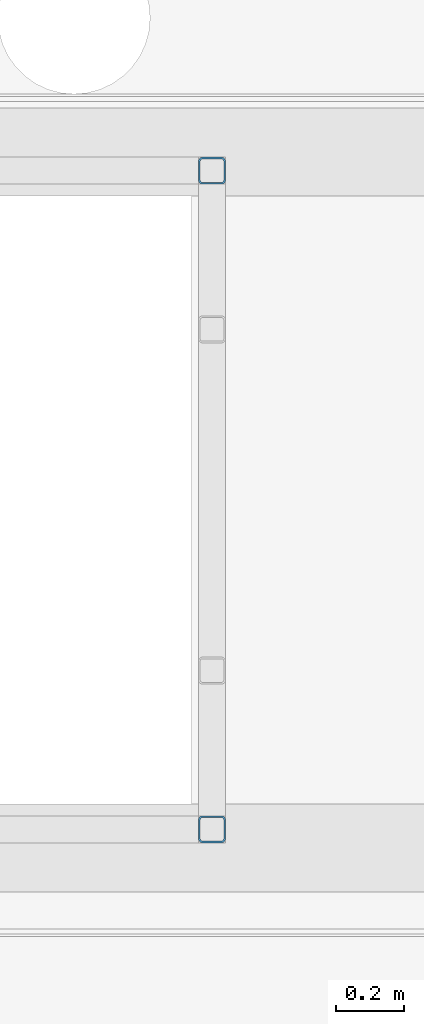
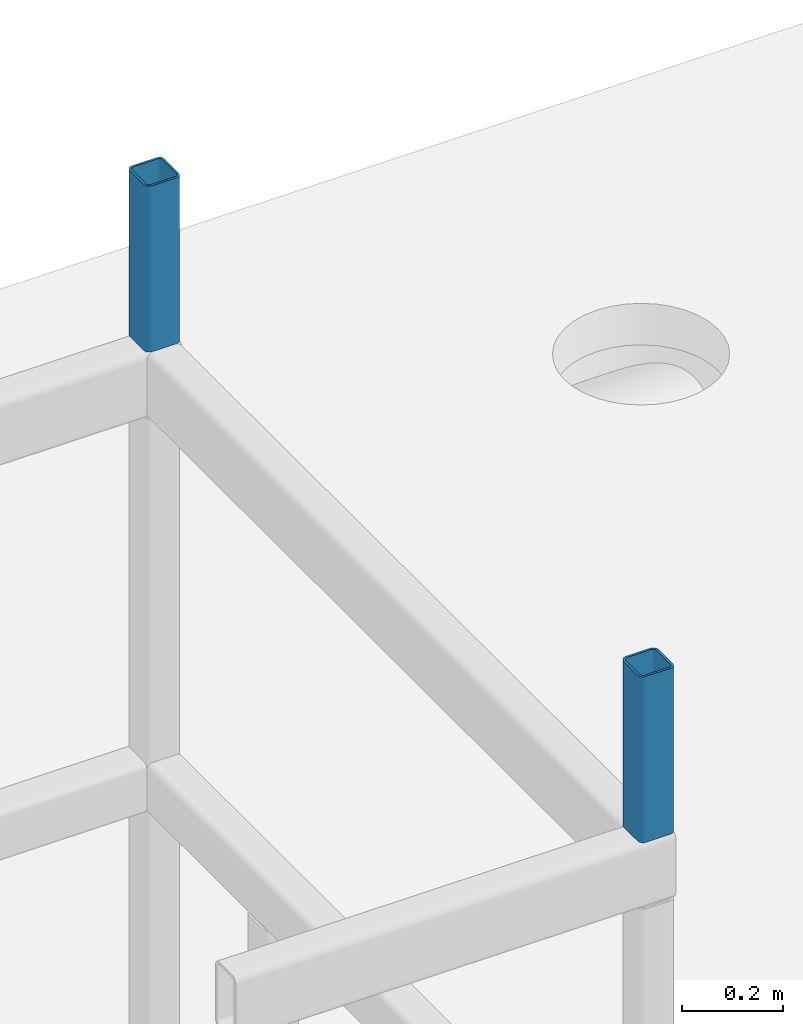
# One storey, part 18 of 34: 2 columns.
"""IFC2X3 building model written with IfcOpenShell, lengths in millimetres."""

from ifc_helpers import new_model, entity, si_unit, converted_unit, derived_unit, direction, frame, origin_with_axes, place, context, subcontext, project, spatial, faceted_brep, type_object, element, save


model = new_model("IFC2X3")

# Units and contexts
model_context = context("Model", 3, precision=0.01, world=frame((0.0, 4.29681676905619e-09, 0.0)), true_north=direction((4.01073788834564e-13, 1.0)))
plan_context = context("Plan", 3, precision=0.01, world=frame((0.0, 4.29681676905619e-09, 0.0)), true_north=direction((4.01073788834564e-13, 1.0)))
body_context = subcontext(model_context, "Body", "Model", "MODEL_VIEW")
ifc_project = project(units=[converted_unit("PLANEANGLEUNIT", "DEGREE", entity("IfcPositiveLengthMeasure", 0.0174532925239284), si_unit("PLANEANGLEUNIT", "RADIAN"), dimensions=[0, 0, 0, 0, 0, 0, 0]), si_unit("AREAUNIT", "SQUARE_METRE"), si_unit("LENGTHUNIT", "METRE", prefix="MILLI"), si_unit("MASSUNIT", "GRAM", prefix="KILO"), si_unit("POWERUNIT", "WATT"), si_unit("PRESSUREUNIT", "PASCAL"), si_unit("FORCEUNIT", "NEWTON", prefix="KILO"), si_unit("ELECTRICVOLTAGEUNIT", "VOLT"), si_unit("ELECTRICCURRENTUNIT", "AMPERE"), si_unit("THERMODYNAMICTEMPERATUREUNIT", "DEGREE_CELSIUS"), si_unit("TIMEUNIT", "SECOND"), si_unit("VOLUMEUNIT", "CUBIC_METRE"), derived_unit("LINEARVELOCITYUNIT", [(si_unit("LENGTHUNIT", "METRE"), 1), (si_unit("TIMEUNIT", "SECOND"), -1)]), derived_unit("VOLUMETRICFLOWRATEUNIT", [(si_unit("VOLUMEUNIT", "CUBIC_METRE"), 1), (si_unit("TIMEUNIT", "SECOND"), -1)]), derived_unit("THERMALTRANSMITTANCEUNIT", [(si_unit("POWERUNIT", "WATT"), 1), (si_unit("THERMODYNAMICTEMPERATUREUNIT", "KELVIN"), -1), (si_unit("AREAUNIT", "SQUARE_METRE"), -1)]), derived_unit("SOUNDPRESSUREUNIT", [(si_unit("PRESSUREUNIT", "PASCAL"), 1)])], contexts=[model_context, plan_context])

# Site, building, storey
site_placement = place(None, frame((0.0, -4.29681676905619e-09, 0.0), z_axis=(0.0, 0.0, 1.0), x_axis=(1.0, 0.0, 0.0)))
site = spatial("IfcSite", under=ifc_project, at=site_placement, Name="Gardermoen", CompositionType="ELEMENT")
building_placement = place(site_placement, frame((0.0, 4.29681676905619e-09, 0.0), z_axis=(0.0, 0.0, 1.0), x_axis=(1.0, 0.0, 0.0)))
building = spatial("IfcBuilding", under=site, at=building_placement, Name="TH", CompositionType="ELEMENT")
storey_placement = place(building_placement, origin_with_axes())
storey = spatial("IfcBuildingStorey", under=building, at=storey_placement, Name="F", CompositionType="ELEMENT", Elevation=0.0)

# Columns
column_type = type_object("IfcColumnType", Name="RHS80*80*5", PredefinedType="NOTDEFINED")
column_1_placement = place(storey_placement, frame((896074.999766, 480345.0, 213500.0), z_axis=(0.0, 0.0, 1.0), x_axis=(1.0, 0.0, 0.0)))
element("IfcColumn", 1, at=column_1_placement, inside=storey, type_object=column_type, Name="STÅLSØYLE", ObjectType="RHS80*80*5", context=body_context, shape_type="Brep", body=[
    faceted_brep([(-35.0000779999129, -27.5, 400.0), (-35.0000779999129, 27.5, 400.0), (-35.000093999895, 27.5, 1.40000020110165e-06), (-35.000093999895, -27.5, 1.40000020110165e-06), (-34.8559676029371, -28.963177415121, 400.000000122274), (-34.8559836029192, -28.963177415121, 1.39423582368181e-06), (-34.4291744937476, -30.3701257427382, 400.000000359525), (-34.4291904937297, -30.3701257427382, 1.37716415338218e-06), (-33.736100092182, -31.666776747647, 400.000000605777), (-33.7361160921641, -31.666776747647, 1.34944139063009e-06), (-32.803378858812, -32.8033008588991, 400.00000089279), (-32.8033948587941, -32.8033008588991, 1.31213255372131e-06), (-31.6668547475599, -33.7360220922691, 400.000000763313), (-31.666870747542, -33.7360220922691, 1.26667146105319e-06), (-30.3702037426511, -34.4290964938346, 400.000000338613), (-30.3702197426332, -34.4290964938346, 1.21480570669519e-06), (-28.9632554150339, -34.8558896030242, 400.00000011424), (-28.963271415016, -34.8558896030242, 1.15852753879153e-06), (-27.5000779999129, -35.0, 400.0), (-27.500093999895, -35.0, 1.10000064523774e-06), (27.4999220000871, -35.0, 400.0), (27.4999060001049, -35.0, -1.09999700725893e-06), (28.9630994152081, -34.8558896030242, 400.0), (28.9630834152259, -34.8558896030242, -1.15852390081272e-06), (30.3700477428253, -34.4290964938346, 400.000000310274), (30.3700317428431, -34.4290964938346, -1.21480206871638e-06), (31.6666987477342, -33.7360220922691, 400.000000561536), (31.666682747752, -33.7360220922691, -1.26666782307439e-06), (32.8032228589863, -32.8033008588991, 400.00000089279), (32.803206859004, -32.8033008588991, -1.31212891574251e-06), (33.7359440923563, -31.666776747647, 400.000001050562), (33.735928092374, -31.666776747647, -1.34943775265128e-06), (34.4290184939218, -30.3701257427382, 400.000001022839), (34.4290024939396, -30.3701257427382, -1.37716051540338e-06), (34.8558116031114, -28.963177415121, 400.000001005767), (34.8557956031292, -28.963177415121, -1.394232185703e-06), (34.9999220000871, -27.5, 400.00000034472), (34.9999060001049, -27.5, -1.39999656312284e-06), (34.9999220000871, 27.5, 400.0), (34.9999060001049, 27.5, -1.39999656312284e-06), (34.8558116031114, 28.963177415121, 400.000000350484), (34.8557956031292, 28.963177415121, -1.394232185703e-06), (34.4290184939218, 30.3701257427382, 400.000001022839), (34.4290024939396, 30.3701257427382, -1.37716051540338e-06), (33.7359440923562, 31.666776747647, 400.000001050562), (33.735928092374, 31.666776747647, -1.34943775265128e-06), (32.8032228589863, 32.8033008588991, 400.000001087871), (32.803206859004, 32.8033008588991, -1.31212891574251e-06), (31.6666987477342, 33.7360220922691, 400.000000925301), (31.666682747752, 33.7360220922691, -1.26666782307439e-06), (30.3700477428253, 34.4290964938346, 400.000000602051), (30.3700317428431, 34.4290964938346, -1.21480206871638e-06), (28.9630994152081, 34.8558896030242, 400.000000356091), (28.9630834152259, 34.8558896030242, -1.15852390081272e-06), (27.4999220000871, 35.0, 400.000000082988), (27.4999060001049, 35.0, -1.09999700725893e-06), (-27.5000779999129, 35.0, 400.00000182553), (-27.500093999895, 35.0, 1.10000064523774e-06), (-28.9632554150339, 34.8558896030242, 400.000000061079), (-28.963271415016, 34.8558896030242, 1.15852753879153e-06), (-30.3702037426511, 34.4290964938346, 400.000000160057), (-30.3702197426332, 34.4290964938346, 1.21480570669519e-06), (-31.6668547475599, 33.7360220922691, 400.000000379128), (-31.666870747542, 33.7360220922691, 1.26667146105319e-06), (-32.803378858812, 32.8033008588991, 400.000000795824), (-32.8033948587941, 32.8033008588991, 1.31213255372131e-06), (-33.736100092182, 31.666776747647, 400.000000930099), (-33.7361160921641, 31.666776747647, 1.34944139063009e-06), (-34.4291744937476, 30.3701257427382, 400.0000006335), (-34.4291904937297, 30.3701257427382, 1.37716415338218e-06), (-34.8559676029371, 28.963177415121, 400.000000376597), (-34.8559836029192, 28.963177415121, 1.39423582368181e-06), (-40.0000779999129, 27.5, 400.0), (-40.0000779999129, -27.5, 400.0), (-40.000093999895, -27.5, 1.59999990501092e-06), (-40.000093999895, 27.5, 1.59999990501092e-06), (-39.7598940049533, 29.9386290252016, 400.000000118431), (-39.7599100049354, 29.9386290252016, 1.59039245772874e-06), (-39.048572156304, 32.2835429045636, 400.000000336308), (-39.0485881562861, 32.2835429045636, 1.56193982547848e-06), (-37.8934481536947, 34.444627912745, 400.000000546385), (-37.8934641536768, 34.444627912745, 1.51573476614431e-06), (-36.3389127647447, 36.3388347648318, 400.000000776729), (-36.3389287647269, 36.3388347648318, 1.45355352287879e-06), (-34.4447059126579, 37.8933701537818, 400.000000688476), (-34.44472191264, 37.8933701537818, 1.37778533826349e-06), (-32.2836209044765, 39.0484941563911, 400.000000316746), (-32.2836369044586, 39.0484941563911, 1.29134195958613e-06), (-29.9387070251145, 39.7598160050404, 400.000000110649), (-29.9387230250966, 39.7598160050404, 1.19754577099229e-06), (-27.5000779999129, 40.0, 400.0), (-27.500093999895, 40.0, 1.10000064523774e-06), (27.4999220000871, 40.0, 400.0), (27.4999060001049, 40.0, -1.09999700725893e-06), (29.9385510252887, 39.7598160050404, 400.0), (29.9385350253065, 39.7598160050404, -1.19754213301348e-06), (32.2834649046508, 39.0484941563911, 400.000000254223), (32.2834489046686, 39.0484941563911, -1.29133832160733e-06), (34.4445499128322, 37.8933701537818, 400.00000047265), (34.44453391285, 37.8933701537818, -1.37778170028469e-06), (36.338756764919, 36.3388347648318, 400.000000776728), (36.3387407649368, 36.3388347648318, -1.45354988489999e-06), (37.893292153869, 34.444627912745, 400.000000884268), (37.8932761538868, 34.444627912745, -1.5157311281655e-06), (39.0484161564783, 32.2835429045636, 400.000000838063), (39.048400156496, 32.2835429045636, -1.56193618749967e-06), (39.7597380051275, 29.9386290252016, 400.000000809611), (39.7597220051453, 29.9386290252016, -1.59038881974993e-06), (39.9999220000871, 27.5, 400.00000034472), (39.9999060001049, 27.5, -1.59999626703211e-06), (39.9999220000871, -27.5, 400.0), (39.9999060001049, -27.5, -1.59999626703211e-06), (39.7597380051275, -29.9386290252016, 400.000000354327), (39.7597220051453, -29.9386290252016, -1.59038881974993e-06), (39.0484161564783, -32.2835429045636, 400.000000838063), (39.048400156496, -32.2835429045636, -1.56193618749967e-06), (37.893292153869, -34.444627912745, 400.000000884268), (37.8932761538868, -34.444627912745, -1.5157311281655e-06), (36.338756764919, -36.3388347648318, 400.00000094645), (36.3387407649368, -36.3388347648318, -1.45354988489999e-06), (34.4445499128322, -37.8933701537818, 400.000000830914), (34.44453391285, -37.8933701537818, -1.37778170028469e-06), (32.2834649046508, -39.0484941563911, 400.000000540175), (32.2834489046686, -39.0484941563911, -1.29133832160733e-06), (29.9385510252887, -39.7598160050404, 400.000000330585), (29.9385350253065, -39.7598160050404, -1.19754213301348e-06), (27.4999220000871, -40.0, 400.000000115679), (27.4999060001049, -40.0, -1.09999700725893e-06), (-27.5000779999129, -40.0, 400.00000182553), (-27.500093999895, -40.0, 1.10000064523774e-06), (-29.9387070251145, -39.7598160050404, 400.000000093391), (-29.9387230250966, -39.7598160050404, 1.19754577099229e-06), (-32.2836209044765, -39.0484941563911, 400.000000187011), (-32.2836369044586, -39.0484941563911, 1.29134195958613e-06), (-34.4447059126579, -37.8933701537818, 400.000000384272), (-34.44472191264, -37.8933701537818, 1.37778533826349e-06), (-36.3389127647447, -36.3388347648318, 400.000000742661), (-36.3389287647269, -36.3388347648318, 1.45355352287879e-06), (-37.8934481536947, -34.444627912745, 400.00000083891), (-37.8934641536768, -34.444627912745, 1.51573476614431e-06), (-39.048572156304, -32.2835429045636, 400.00000059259), (-39.0485881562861, -32.2835429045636, 1.56193982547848e-06), (-39.7598940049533, -29.9386290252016, 400.000000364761), (-39.7599100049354, -29.9386290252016, 1.59039245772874e-06), (-39.7598940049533, 29.9386290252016, 400.000000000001), (-39.048572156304, 32.2835429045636, 400.0), (-37.8934481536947, 34.444627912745, 400.0), (-36.3389127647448, 36.3388347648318, 400.0), (-34.444705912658, 37.8933701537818, 400.0), (-32.2836209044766, 39.0484941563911, 400.0), (-29.9387070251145, 39.7598160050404, 400.0), (32.2834649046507, 39.0484941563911, 400.0), (34.4445499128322, 37.8933701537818, 400.0), (36.338756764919, 36.3388347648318, 400.0), (37.8932921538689, 34.444627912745, 400.0), (39.0484161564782, 32.2835429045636, 400.0), (39.7597380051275, 29.9386290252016, 400.0), (39.9999220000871, 27.5, 400.0), (39.7597380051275, -29.9386290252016, 400.0), (39.0484161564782, -32.2835429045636, 400.0), (37.8932921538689, -34.444627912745, 400.0), (36.338756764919, -36.3388347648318, 400.0), (34.4445499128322, -37.8933701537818, 400.0), (32.2834649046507, -39.0484941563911, 400.0), (29.9385510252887, -39.7598160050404, 400.0), (27.4999220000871, -40.0, 400.0), (-27.5000779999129, -40.0, 400.0), (-29.9387070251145, -39.7598160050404, 400.0), (-32.2836209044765, -39.0484941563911, 400.0), (-34.444705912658, -37.8933701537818, 400.0), (-36.3389127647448, -36.3388347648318, 400.0), (-37.8934481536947, -34.444627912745, 400.0), (-39.048572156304, -32.2835429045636, 400.0), (-39.7598940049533, -29.9386290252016, 400.0), (-34.8559676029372, -28.963177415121, 400.0), (-34.4291744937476, -30.3701257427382, 400.0), (-33.736100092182, -31.666776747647, 400.0), (-32.803378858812, -32.8033008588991, 400.0), (-31.6668547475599, -33.7360220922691, 400.0), (-30.3702037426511, -34.4290964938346, 400.0), (-28.9632554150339, -34.8558896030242, 400.0), (30.3700477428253, -34.4290964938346, 400.0), (31.6666987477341, -33.7360220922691, 400.000000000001), (32.8032228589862, -32.8033008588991, 400.0), (33.7359440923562, -31.666776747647, 400.0), (34.4290184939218, -30.3701257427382, 400.0), (34.8558116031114, -28.963177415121, 400.0), (34.9999220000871, -27.5, 400.0), (34.8558116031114, 28.963177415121, 400.0), (34.4290184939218, 30.3701257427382, 400.0), (33.7359440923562, 31.666776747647, 400.0), (32.8032228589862, 32.8033008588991, 400.0), (31.6666987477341, 33.7360220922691, 400.0), (30.3700477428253, 34.4290964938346, 400.0), (28.9630994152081, 34.8558896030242, 400.0), (27.4999220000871, 35.0, 400.0), (-27.5000779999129, 35.0, 400.0), (-28.9632554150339, 34.8558896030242, 400.0), (-30.3702037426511, 34.4290964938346, 400.0), (-31.6668547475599, 33.7360220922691, 400.0), (-32.803378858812, 32.8033008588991, 400.0), (-33.736100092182, 31.666776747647, 400.0), (-34.4291744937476, 30.3701257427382, 400.0), (-34.8559676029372, 28.963177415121, 400.0)], [[[0, 1, 2, 3]], [[4, 0, 3, 5]], [[6, 4, 5, 7]], [[8, 6, 7, 9]], [[10, 8, 9, 11]], [[12, 10, 11, 13]], [[14, 12, 13, 15]], [[16, 14, 15, 17]], [[18, 16, 17, 19]], [[20, 18, 19, 21]], [[22, 20, 21, 23]], [[24, 22, 23, 25]], [[26, 24, 25, 27]], [[28, 26, 27, 29]], [[30, 28, 29, 31]], [[32, 30, 31, 33]], [[34, 32, 33, 35]], [[36, 34, 35, 37]], [[38, 36, 37, 39]], [[40, 38, 39, 41]], [[42, 40, 41, 43]], [[44, 42, 43, 45]], [[46, 44, 45, 47]], [[48, 46, 47, 49]], [[50, 48, 49, 51]], [[52, 50, 51, 53]], [[54, 52, 53, 55]], [[56, 54, 55, 57]], [[58, 56, 57, 59]], [[60, 58, 59, 61]], [[62, 60, 61, 63]], [[64, 62, 63, 65]], [[66, 64, 65, 67]], [[68, 66, 67, 69]], [[70, 68, 69, 71]], [[1, 70, 71, 2]], [[72, 73, 74, 75]], [[76, 72, 75, 77]], [[78, 76, 77, 79]], [[80, 78, 79, 81]], [[82, 80, 81, 83]], [[84, 82, 83, 85]], [[86, 84, 85, 87]], [[88, 86, 87, 89]], [[90, 88, 89, 91]], [[92, 90, 91, 93]], [[94, 92, 93, 95]], [[96, 94, 95, 97]], [[98, 96, 97, 99]], [[100, 98, 99, 101]], [[102, 100, 101, 103]], [[104, 102, 103, 105]], [[106, 104, 105, 107]], [[108, 106, 107, 109]], [[110, 108, 109, 111]], [[112, 110, 111, 113]], [[114, 112, 113, 115]], [[116, 114, 115, 117]], [[118, 116, 117, 119]], [[120, 118, 119, 121]], [[122, 120, 121, 123]], [[124, 122, 123, 125]], [[126, 124, 125, 127]], [[128, 126, 127, 129]], [[130, 128, 129, 131]], [[132, 130, 131, 133]], [[134, 132, 133, 135]], [[136, 134, 135, 137]], [[138, 136, 137, 139]], [[140, 138, 139, 141]], [[142, 140, 141, 143]], [[73, 142, 143, 74]], [[75, 74, 143, 141, 139, 137, 135, 133, 131, 129, 127, 125, 123, 121, 119, 117, 115, 113, 111, 109, 107, 105, 103, 101, 99, 97, 95, 93, 91, 89, 87, 85, 83, 81, 79, 77], [2, 71, 69, 67, 65, 63, 61, 59, 57, 55, 53, 51, 49, 47, 45, 43, 41, 39, 37, 35, 33, 31, 29, 27, 25, 23, 21, 19, 17, 15, 13, 11, 9, 7, 5, 3]], [[144, 145, 146, 147, 148, 149, 150, 90, 92, 94, 151, 152, 153, 154, 155, 156, 157, 110, 158, 159, 160, 161, 162, 163, 164, 165, 166, 167, 168, 169, 170, 171, 172, 173, 73, 72], [174, 175, 176, 177, 178, 179, 180, 18, 20, 22, 181, 182, 183, 184, 185, 186, 187, 38, 188, 189, 190, 191, 192, 193, 194, 195, 196, 197, 198, 199, 200, 201, 202, 203, 1, 0]]], orient=[[False], [False], [False], [False], [False], [False], [False], [False], [False], [False], [False], [False], [False], [False], [False], [False], [False], [False], [False], [False], [False], [False], [False], [False], [False], [False], [False], [False], [False], [False], [False], [False], [False], [False], [False], [False], [False], [False], [False], [False], [False], [False], [False], [False], [False], [False], [False], [False], [False], [False], [False], [False], [False], [False], [False], [False], [False], [False], [False], [False], [False], [False], [False], [False], [False], [False], [False], [False], [False], [False], [False], [False], [False, False], [False, False]]),
])
column_2_placement = place(storey_placement, frame((896074.999766, 478395.0, 213500.0), z_axis=(0.0, 0.0, 1.0), x_axis=(1.0, 0.0, 0.0)))
element("IfcColumn", 2, at=column_2_placement, inside=storey, type_object=column_type, Name="STÅLSØYLE", ObjectType="RHS80*80*5", context=body_context, shape_type="Brep", body=[
    faceted_brep([(-35.0000779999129, -27.5, 400.0), (-35.0000779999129, 27.5, 400.0), (-35.000093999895, 27.5, 1.40000020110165e-06), (-35.000093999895, -27.5, 1.40000020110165e-06), (-34.8559676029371, -28.963177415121, 400.000000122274), (-34.8559836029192, -28.963177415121, 1.39423582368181e-06), (-34.4291744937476, -30.3701257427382, 400.000000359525), (-34.4291904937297, -30.3701257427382, 1.37716415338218e-06), (-33.736100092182, -31.666776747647, 400.000000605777), (-33.7361160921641, -31.666776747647, 1.34944139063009e-06), (-32.803378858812, -32.8033008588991, 400.00000089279), (-32.8033948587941, -32.8033008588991, 1.31213255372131e-06), (-31.6668547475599, -33.7360220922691, 400.000000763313), (-31.666870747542, -33.7360220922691, 1.26667146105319e-06), (-30.3702037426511, -34.4290964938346, 400.000000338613), (-30.3702197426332, -34.4290964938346, 1.21480570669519e-06), (-28.9632554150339, -34.8558896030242, 400.00000011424), (-28.963271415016, -34.8558896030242, 1.15852753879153e-06), (-27.5000779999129, -35.0, 400.0), (-27.500093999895, -35.0, 1.10000064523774e-06), (27.4999220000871, -35.0, 400.0), (27.4999060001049, -35.0, -1.09999700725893e-06), (28.9630994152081, -34.8558896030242, 400.0), (28.9630834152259, -34.8558896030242, -1.15852390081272e-06), (30.3700477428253, -34.4290964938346, 400.000000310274), (30.3700317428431, -34.4290964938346, -1.21480206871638e-06), (31.6666987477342, -33.7360220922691, 400.000000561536), (31.666682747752, -33.7360220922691, -1.26666782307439e-06), (32.8032228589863, -32.8033008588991, 400.00000089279), (32.803206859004, -32.8033008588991, -1.31212891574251e-06), (33.7359440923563, -31.666776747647, 400.000001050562), (33.735928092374, -31.666776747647, -1.34943775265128e-06), (34.4290184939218, -30.3701257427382, 400.000001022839), (34.4290024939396, -30.3701257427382, -1.37716051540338e-06), (34.8558116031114, -28.963177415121, 400.000001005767), (34.8557956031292, -28.963177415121, -1.394232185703e-06), (34.9999220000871, -27.5, 400.00000034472), (34.9999060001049, -27.5, -1.39999656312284e-06), (34.9999220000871, 27.5, 400.0), (34.9999060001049, 27.5, -1.39999656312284e-06), (34.8558116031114, 28.963177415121, 400.000000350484), (34.8557956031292, 28.963177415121, -1.394232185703e-06), (34.4290184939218, 30.3701257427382, 400.000001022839), (34.4290024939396, 30.3701257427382, -1.37716051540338e-06), (33.7359440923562, 31.666776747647, 400.000001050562), (33.735928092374, 31.666776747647, -1.34943775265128e-06), (32.8032228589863, 32.8033008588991, 400.000001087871), (32.803206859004, 32.8033008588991, -1.31212891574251e-06), (31.6666987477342, 33.7360220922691, 400.000000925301), (31.666682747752, 33.7360220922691, -1.26666782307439e-06), (30.3700477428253, 34.4290964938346, 400.000000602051), (30.3700317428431, 34.4290964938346, -1.21480206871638e-06), (28.9630994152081, 34.8558896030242, 400.000000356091), (28.9630834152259, 34.8558896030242, -1.15852390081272e-06), (27.4999220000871, 35.0, 400.000000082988), (27.4999060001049, 35.0, -1.09999700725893e-06), (-27.5000779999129, 35.0, 400.00000182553), (-27.500093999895, 35.0, 1.10000064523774e-06), (-28.9632554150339, 34.8558896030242, 400.000000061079), (-28.963271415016, 34.8558896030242, 1.15852753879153e-06), (-30.3702037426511, 34.4290964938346, 400.000000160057), (-30.3702197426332, 34.4290964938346, 1.21480570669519e-06), (-31.6668547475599, 33.7360220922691, 400.000000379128), (-31.666870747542, 33.7360220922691, 1.26667146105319e-06), (-32.803378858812, 32.8033008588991, 400.000000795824), (-32.8033948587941, 32.8033008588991, 1.31213255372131e-06), (-33.736100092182, 31.666776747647, 400.000000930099), (-33.7361160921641, 31.666776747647, 1.34944139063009e-06), (-34.4291744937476, 30.3701257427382, 400.0000006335), (-34.4291904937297, 30.3701257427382, 1.37716415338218e-06), (-34.8559676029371, 28.963177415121, 400.000000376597), (-34.8559836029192, 28.963177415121, 1.39423582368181e-06), (-40.0000779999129, 27.5, 400.0), (-40.0000779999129, -27.5, 400.0), (-40.000093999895, -27.5, 1.59999990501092e-06), (-40.000093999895, 27.5, 1.59999990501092e-06), (-39.7598940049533, 29.9386290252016, 400.000000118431), (-39.7599100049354, 29.9386290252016, 1.59039245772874e-06), (-39.048572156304, 32.2835429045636, 400.000000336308), (-39.0485881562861, 32.2835429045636, 1.56193982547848e-06), (-37.8934481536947, 34.444627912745, 400.000000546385), (-37.8934641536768, 34.444627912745, 1.51573476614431e-06), (-36.3389127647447, 36.3388347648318, 400.000000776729), (-36.3389287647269, 36.3388347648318, 1.45355352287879e-06), (-34.4447059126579, 37.8933701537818, 400.000000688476), (-34.44472191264, 37.8933701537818, 1.37778533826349e-06), (-32.2836209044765, 39.0484941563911, 400.000000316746), (-32.2836369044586, 39.0484941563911, 1.29134195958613e-06), (-29.9387070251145, 39.7598160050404, 400.000000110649), (-29.9387230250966, 39.7598160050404, 1.19754577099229e-06), (-27.5000779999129, 40.0, 400.0), (-27.500093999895, 40.0, 1.10000064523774e-06), (27.4999220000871, 40.0, 400.0), (27.4999060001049, 40.0, -1.09999700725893e-06), (29.9385510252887, 39.7598160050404, 400.0), (29.9385350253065, 39.7598160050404, -1.19754213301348e-06), (32.2834649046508, 39.0484941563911, 400.000000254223), (32.2834489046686, 39.0484941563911, -1.29133832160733e-06), (34.4445499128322, 37.8933701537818, 400.00000047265), (34.44453391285, 37.8933701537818, -1.37778170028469e-06), (36.338756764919, 36.3388347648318, 400.000000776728), (36.3387407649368, 36.3388347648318, -1.45354988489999e-06), (37.893292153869, 34.444627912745, 400.000000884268), (37.8932761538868, 34.444627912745, -1.5157311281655e-06), (39.0484161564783, 32.2835429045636, 400.000000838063), (39.048400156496, 32.2835429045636, -1.56193618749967e-06), (39.7597380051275, 29.9386290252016, 400.000000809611), (39.7597220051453, 29.9386290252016, -1.59038881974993e-06), (39.9999220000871, 27.5, 400.00000034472), (39.9999060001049, 27.5, -1.59999626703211e-06), (39.9999220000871, -27.5, 400.0), (39.9999060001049, -27.5, -1.59999626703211e-06), (39.7597380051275, -29.9386290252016, 400.000000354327), (39.7597220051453, -29.9386290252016, -1.59038881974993e-06), (39.0484161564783, -32.2835429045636, 400.000000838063), (39.048400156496, -32.2835429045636, -1.56193618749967e-06), (37.893292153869, -34.444627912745, 400.000000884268), (37.8932761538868, -34.444627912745, -1.5157311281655e-06), (36.338756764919, -36.3388347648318, 400.00000094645), (36.3387407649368, -36.3388347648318, -1.45354988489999e-06), (34.4445499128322, -37.8933701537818, 400.000000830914), (34.44453391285, -37.8933701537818, -1.37778170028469e-06), (32.2834649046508, -39.0484941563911, 400.000000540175), (32.2834489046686, -39.0484941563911, -1.29133832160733e-06), (29.9385510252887, -39.7598160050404, 400.000000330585), (29.9385350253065, -39.7598160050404, -1.19754213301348e-06), (27.4999220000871, -40.0, 400.000000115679), (27.4999060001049, -40.0, -1.09999700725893e-06), (-27.5000779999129, -40.0, 400.00000182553), (-27.500093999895, -40.0, 1.10000064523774e-06), (-29.9387070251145, -39.7598160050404, 400.000000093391), (-29.9387230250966, -39.7598160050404, 1.19754577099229e-06), (-32.2836209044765, -39.0484941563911, 400.000000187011), (-32.2836369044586, -39.0484941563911, 1.29134195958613e-06), (-34.4447059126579, -37.8933701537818, 400.000000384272), (-34.44472191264, -37.8933701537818, 1.37778533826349e-06), (-36.3389127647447, -36.3388347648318, 400.000000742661), (-36.3389287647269, -36.3388347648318, 1.45355352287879e-06), (-37.8934481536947, -34.444627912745, 400.00000083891), (-37.8934641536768, -34.444627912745, 1.51573476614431e-06), (-39.048572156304, -32.2835429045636, 400.00000059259), (-39.0485881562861, -32.2835429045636, 1.56193982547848e-06), (-39.7598940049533, -29.9386290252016, 400.000000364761), (-39.7599100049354, -29.9386290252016, 1.59039245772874e-06), (-39.7598940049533, 29.9386290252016, 400.000000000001), (-39.048572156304, 32.2835429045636, 400.0), (-37.8934481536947, 34.444627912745, 400.0), (-36.3389127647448, 36.3388347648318, 400.0), (-34.444705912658, 37.8933701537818, 400.0), (-32.2836209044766, 39.0484941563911, 400.0), (-29.9387070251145, 39.7598160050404, 400.0), (32.2834649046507, 39.0484941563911, 400.0), (34.4445499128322, 37.8933701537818, 400.0), (36.338756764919, 36.3388347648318, 400.0), (37.8932921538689, 34.444627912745, 400.0), (39.0484161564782, 32.2835429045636, 400.0), (39.7597380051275, 29.9386290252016, 400.0), (39.9999220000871, 27.5, 400.0), (39.7597380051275, -29.9386290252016, 400.0), (39.0484161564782, -32.2835429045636, 400.0), (37.8932921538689, -34.444627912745, 400.0), (36.338756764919, -36.3388347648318, 400.0), (34.4445499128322, -37.8933701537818, 400.0), (32.2834649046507, -39.0484941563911, 400.0), (29.9385510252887, -39.7598160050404, 400.0), (27.4999220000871, -40.0, 400.0), (-27.5000779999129, -40.0, 400.0), (-29.9387070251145, -39.7598160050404, 400.0), (-32.2836209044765, -39.0484941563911, 400.0), (-34.444705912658, -37.8933701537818, 400.0), (-36.3389127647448, -36.3388347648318, 400.0), (-37.8934481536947, -34.444627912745, 400.0), (-39.048572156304, -32.2835429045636, 400.0), (-39.7598940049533, -29.9386290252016, 400.0), (-34.8559676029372, -28.963177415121, 400.0), (-34.4291744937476, -30.3701257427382, 400.0), (-33.736100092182, -31.666776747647, 400.0), (-32.803378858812, -32.8033008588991, 400.0), (-31.6668547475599, -33.7360220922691, 400.0), (-30.3702037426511, -34.4290964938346, 400.0), (-28.9632554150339, -34.8558896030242, 400.0), (30.3700477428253, -34.4290964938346, 400.0), (31.6666987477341, -33.7360220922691, 400.000000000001), (32.8032228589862, -32.8033008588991, 400.0), (33.7359440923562, -31.666776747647, 400.0), (34.4290184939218, -30.3701257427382, 400.0), (34.8558116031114, -28.963177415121, 400.0), (34.9999220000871, -27.5, 400.0), (34.8558116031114, 28.963177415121, 400.0), (34.4290184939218, 30.3701257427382, 400.0), (33.7359440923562, 31.666776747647, 400.0), (32.8032228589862, 32.8033008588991, 400.0), (31.6666987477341, 33.7360220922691, 400.0), (30.3700477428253, 34.4290964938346, 400.0), (28.9630994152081, 34.8558896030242, 400.0), (27.4999220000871, 35.0, 400.0), (-27.5000779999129, 35.0, 400.0), (-28.9632554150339, 34.8558896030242, 400.0), (-30.3702037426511, 34.4290964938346, 400.0), (-31.6668547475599, 33.7360220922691, 400.0), (-32.803378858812, 32.8033008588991, 400.0), (-33.736100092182, 31.666776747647, 400.0), (-34.4291744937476, 30.3701257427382, 400.0), (-34.8559676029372, 28.963177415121, 400.0)], [[[0, 1, 2, 3]], [[4, 0, 3, 5]], [[6, 4, 5, 7]], [[8, 6, 7, 9]], [[10, 8, 9, 11]], [[12, 10, 11, 13]], [[14, 12, 13, 15]], [[16, 14, 15, 17]], [[18, 16, 17, 19]], [[20, 18, 19, 21]], [[22, 20, 21, 23]], [[24, 22, 23, 25]], [[26, 24, 25, 27]], [[28, 26, 27, 29]], [[30, 28, 29, 31]], [[32, 30, 31, 33]], [[34, 32, 33, 35]], [[36, 34, 35, 37]], [[38, 36, 37, 39]], [[40, 38, 39, 41]], [[42, 40, 41, 43]], [[44, 42, 43, 45]], [[46, 44, 45, 47]], [[48, 46, 47, 49]], [[50, 48, 49, 51]], [[52, 50, 51, 53]], [[54, 52, 53, 55]], [[56, 54, 55, 57]], [[58, 56, 57, 59]], [[60, 58, 59, 61]], [[62, 60, 61, 63]], [[64, 62, 63, 65]], [[66, 64, 65, 67]], [[68, 66, 67, 69]], [[70, 68, 69, 71]], [[1, 70, 71, 2]], [[72, 73, 74, 75]], [[76, 72, 75, 77]], [[78, 76, 77, 79]], [[80, 78, 79, 81]], [[82, 80, 81, 83]], [[84, 82, 83, 85]], [[86, 84, 85, 87]], [[88, 86, 87, 89]], [[90, 88, 89, 91]], [[92, 90, 91, 93]], [[94, 92, 93, 95]], [[96, 94, 95, 97]], [[98, 96, 97, 99]], [[100, 98, 99, 101]], [[102, 100, 101, 103]], [[104, 102, 103, 105]], [[106, 104, 105, 107]], [[108, 106, 107, 109]], [[110, 108, 109, 111]], [[112, 110, 111, 113]], [[114, 112, 113, 115]], [[116, 114, 115, 117]], [[118, 116, 117, 119]], [[120, 118, 119, 121]], [[122, 120, 121, 123]], [[124, 122, 123, 125]], [[126, 124, 125, 127]], [[128, 126, 127, 129]], [[130, 128, 129, 131]], [[132, 130, 131, 133]], [[134, 132, 133, 135]], [[136, 134, 135, 137]], [[138, 136, 137, 139]], [[140, 138, 139, 141]], [[142, 140, 141, 143]], [[73, 142, 143, 74]], [[75, 74, 143, 141, 139, 137, 135, 133, 131, 129, 127, 125, 123, 121, 119, 117, 115, 113, 111, 109, 107, 105, 103, 101, 99, 97, 95, 93, 91, 89, 87, 85, 83, 81, 79, 77], [2, 71, 69, 67, 65, 63, 61, 59, 57, 55, 53, 51, 49, 47, 45, 43, 41, 39, 37, 35, 33, 31, 29, 27, 25, 23, 21, 19, 17, 15, 13, 11, 9, 7, 5, 3]], [[144, 145, 146, 147, 148, 149, 150, 90, 92, 94, 151, 152, 153, 154, 155, 156, 157, 110, 158, 159, 160, 161, 162, 163, 164, 165, 166, 167, 168, 169, 170, 171, 172, 173, 73, 72], [174, 175, 176, 177, 178, 179, 180, 18, 20, 22, 181, 182, 183, 184, 185, 186, 187, 38, 188, 189, 190, 191, 192, 193, 194, 195, 196, 197, 198, 199, 200, 201, 202, 203, 1, 0]]], orient=[[False], [False], [False], [False], [False], [False], [False], [False], [False], [False], [False], [False], [False], [False], [False], [False], [False], [False], [False], [False], [False], [False], [False], [False], [False], [False], [False], [False], [False], [False], [False], [False], [False], [False], [False], [False], [False], [False], [False], [False], [False], [False], [False], [False], [False], [False], [False], [False], [False], [False], [False], [False], [False], [False], [False], [False], [False], [False], [False], [False], [False], [False], [False], [False], [False], [False], [False], [False], [False], [False], [False], [False], [False, False], [False, False]]),
])

save(model, "model.ifc")
